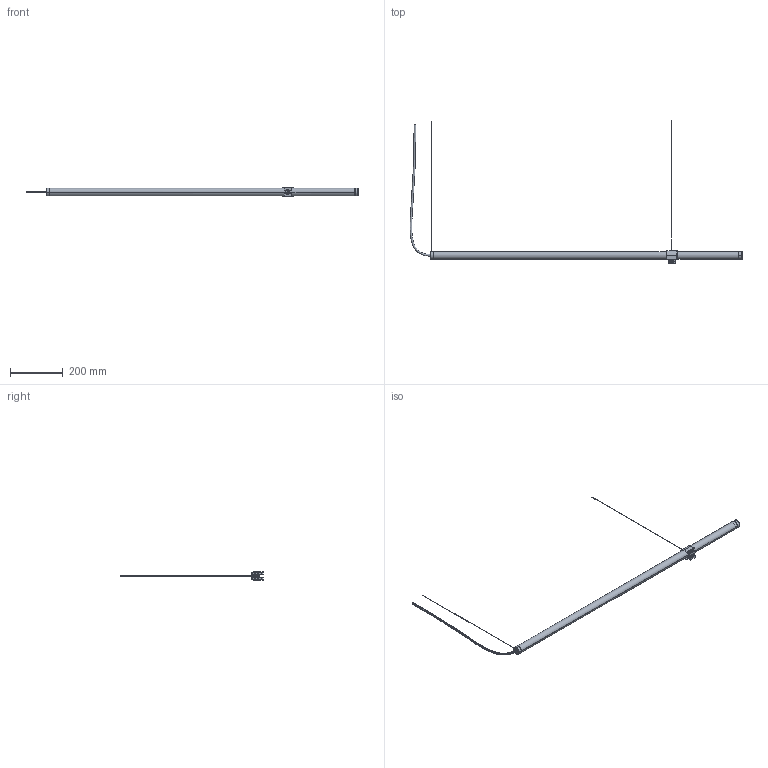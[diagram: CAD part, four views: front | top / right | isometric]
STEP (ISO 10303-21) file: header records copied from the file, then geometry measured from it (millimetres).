
FILE_DESCRIPTION (( 'STEP AP214' ), '1' );
FILE_NAME ('ACTUCCXXEXBI1XX.STEP', '2023-08-29T07:39:46', ( '' ), ( '' ), 'SwSTEP 2.0', 'SolidWorks 2023', '' );
FILE_SCHEMA (( 'AUTOMOTIVE_DESIGN' ));
Length unit declared in the file: millimetre
Products named in the file (7): ACCAVOEL2X001XX; WSVBPAR116225XX-00; WSCA01193000B2830B; ACTUCCXXEXBI1XX; WSCP2E0012-1400-01; WSCP2E0003-1400-02; WSCP2E0046-1400-00
Assembly tree (7 placements, depth 2):
  ACTUCCXXEXBI1XX
    WSVBPAR116225XX-00
    WSCP2E0003-1400-02
    WSCP2E0012-1400-01
    WSCP2E0046-1400-00
    WSCA01193000B2830B  x2
    ACCAVOEL2X001XX
Bounding box: 1263.05 x 543.11 x 36.2 mm (x, y, z)
Volume: 323745.7 mm3; surface area: 257579.7 mm2
Topology: 14 solids, 14 shells, 1804 faces, 4330 edges, 2353 vertices
Faces by surface type: cylinder 720, torus 472, plane 226, bspline 189, sphere 185, cone 12
Entity records: 64826 total; most frequent: CARTESIAN_POINT 24967, DIRECTION 9065, ORIENTED_EDGE 8034, EDGE_CURVE 4017, AXIS2_PLACEMENT_3D 3913, CIRCLE 2295, VERTEX_POINT 2249, EDGE_LOOP 1834
